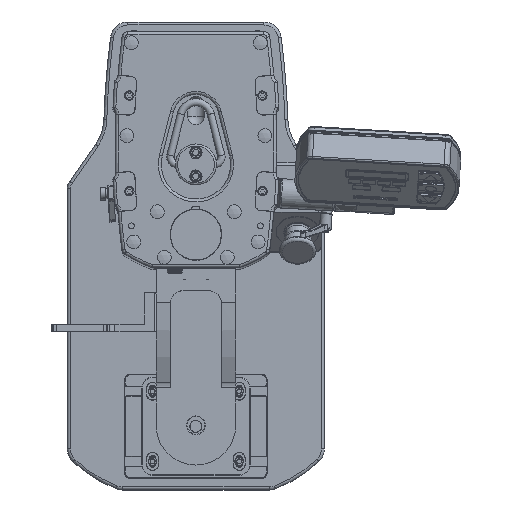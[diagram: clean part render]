
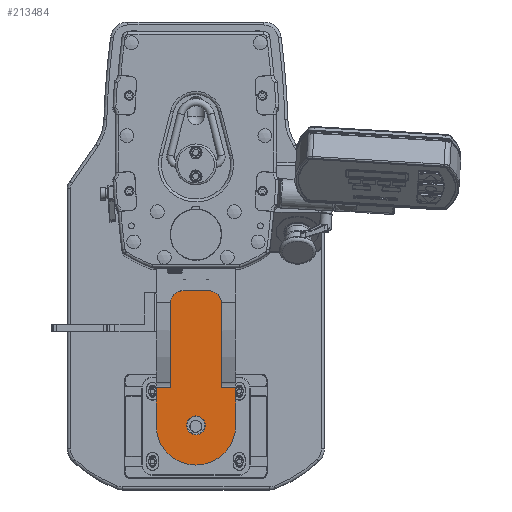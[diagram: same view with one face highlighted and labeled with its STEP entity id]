
A CAD part, top view. The second image highlights one B-rep face of the part: STEP entity #213484.
In plain terms, the highlighted planar face has unit normal (0, 0, 1).
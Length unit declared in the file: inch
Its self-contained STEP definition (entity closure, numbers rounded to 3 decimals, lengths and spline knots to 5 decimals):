
#179895=CARTESIAN_POINT('',(103.73337,-86.53199,-0.0405));
#179896=VERTEX_POINT('',#179895);
#179903=CARTESIAN_POINT('',(103.73337,-84.93199,-0.0405));
#179904=VERTEX_POINT('',#179903);
#179905=CARTESIAN_POINT('',(103.73337,-86.53199,-0.0405));
#179906=DIRECTION('',(0.0,1.0,0.0));
#179907=VECTOR('',#179906,1.6);
#179908=LINE('',#179905,#179907);
#179909=EDGE_CURVE('',#179896,#179904,#179908,.T.);
#213368=CARTESIAN_POINT('',(105.43337,-86.13099,-0.0405));
#213369=VERTEX_POINT('',#213368);
#213370=CARTESIAN_POINT('',(105.43337,-86.53199,-0.0405));
#213371=DIRECTION('',(0.0,0.0,1.0));
#213372=DIRECTION('',(0.0,-1.0,0.0));
#213373=AXIS2_PLACEMENT_3D('',#213370,#213371,#213372);
#213374=CIRCLE('',#213373,0.401);
#213375=EDGE_CURVE('',#213369,#213369,#213374,.T.);
#213400=CARTESIAN_POINT('',(105.43337,-83.78558,-0.0405));
#213401=DIRECTION('',(0.0,0.0,-1.0));
#213402=DIRECTION('',(0.0,1.0,0.0));
#213403=AXIS2_PLACEMENT_3D('',#213400,#213401,#213402);
#213404=PLANE('',#213403);
#213405=CARTESIAN_POINT('',(106.53337,-81.33199,-0.0405));
#213406=VERTEX_POINT('',#213405);
#213407=CARTESIAN_POINT('',(105.98337,-80.78199,-0.0405));
#213408=VERTEX_POINT('',#213407);
#213409=CARTESIAN_POINT('',(105.98337,-81.33199,-0.0405));
#213410=DIRECTION('',(0.,0.,1.0));
#213411=DIRECTION('',(0.707,0.707,0.));
#213412=AXIS2_PLACEMENT_3D('',#213409,#213410,#213411);
#213413=CIRCLE('',#213412,0.55);
#213414=EDGE_CURVE('',#213406,#213408,#213413,.T.);
#213415=ORIENTED_EDGE('',*,*,#213414,.T.);
#213416=CARTESIAN_POINT('',(104.88337,-80.78199,-0.0405));
#213417=VERTEX_POINT('',#213416);
#213418=CARTESIAN_POINT('',(104.88337,-80.78199,-0.0405));
#213419=DIRECTION('',(1.0,0.0,0.0));
#213420=VECTOR('',#213419,1.1);
#213421=LINE('',#213418,#213420);
#213422=EDGE_CURVE('',#213417,#213408,#213421,.T.);
#213423=ORIENTED_EDGE('',*,*,#213422,.F.);
#213424=CARTESIAN_POINT('',(104.33337,-81.33199,-0.0405));
#213425=VERTEX_POINT('',#213424);
#213426=CARTESIAN_POINT('',(104.88337,-81.33199,-0.0405));
#213427=DIRECTION('',(0.,0.,1.0));
#213428=DIRECTION('',(-0.707,0.707,0.));
#213429=AXIS2_PLACEMENT_3D('',#213426,#213427,#213428);
#213430=CIRCLE('',#213429,0.55);
#213431=EDGE_CURVE('',#213417,#213425,#213430,.T.);
#213432=ORIENTED_EDGE('',*,*,#213431,.T.);
#213433=CARTESIAN_POINT('',(104.33337,-84.93199,-0.0405));
#213434=VERTEX_POINT('',#213433);
#213435=CARTESIAN_POINT('',(104.33337,-81.33199,-0.0405));
#213436=DIRECTION('',(0.0,-1.0,0.0));
#213437=VECTOR('',#213436,3.6);
#213438=LINE('',#213435,#213437);
#213439=EDGE_CURVE('',#213425,#213434,#213438,.T.);
#213440=ORIENTED_EDGE('',*,*,#213439,.T.);
#213441=CARTESIAN_POINT('',(104.33337,-84.93199,-0.0405));
#213442=DIRECTION('',(-1.0,0.0,0.0));
#213443=VECTOR('',#213442,0.6);
#213444=LINE('',#213441,#213443);
#213445=EDGE_CURVE('',#213434,#179904,#213444,.T.);
#213446=ORIENTED_EDGE('',*,*,#213445,.T.);
#213447=ORIENTED_EDGE('',*,*,#179909,.F.);
#213448=CARTESIAN_POINT('',(107.13337,-86.53199,-0.0405));
#213449=VERTEX_POINT('',#213448);
#213450=CARTESIAN_POINT('',(105.43337,-86.53199,-0.0405));
#213451=DIRECTION('',(0.0,0.0,1.0));
#213452=DIRECTION('',(0.0,1.0,0.0));
#213453=AXIS2_PLACEMENT_3D('',#213450,#213451,#213452);
#213454=CIRCLE('',#213453,1.7);
#213455=EDGE_CURVE('',#179896,#213449,#213454,.T.);
#213456=ORIENTED_EDGE('',*,*,#213455,.T.);
#213457=CARTESIAN_POINT('',(107.13337,-84.93199,-0.0405));
#213458=VERTEX_POINT('',#213457);
#213459=CARTESIAN_POINT('',(107.13337,-86.53199,-0.0405));
#213460=DIRECTION('',(0.0,1.0,0.0));
#213461=VECTOR('',#213460,1.6);
#213462=LINE('',#213459,#213461);
#213463=EDGE_CURVE('',#213449,#213458,#213462,.T.);
#213464=ORIENTED_EDGE('',*,*,#213463,.T.);
#213465=CARTESIAN_POINT('',(106.53337,-84.93199,-0.0405));
#213466=VERTEX_POINT('',#213465);
#213467=CARTESIAN_POINT('',(107.13337,-84.93199,-0.0405));
#213468=DIRECTION('',(-1.0,0.0,0.0));
#213469=VECTOR('',#213468,0.6);
#213470=LINE('',#213467,#213469);
#213471=EDGE_CURVE('',#213458,#213466,#213470,.T.);
#213472=ORIENTED_EDGE('',*,*,#213471,.T.);
#213473=CARTESIAN_POINT('',(106.53337,-84.93199,-0.0405));
#213474=DIRECTION('',(0.0,1.0,0.0));
#213475=VECTOR('',#213474,3.6);
#213476=LINE('',#213473,#213475);
#213477=EDGE_CURVE('',#213466,#213406,#213476,.T.);
#213478=ORIENTED_EDGE('',*,*,#213477,.T.);
#213479=EDGE_LOOP('',(#213415,#213423,#213432,#213440,#213446,#213447,#213456,#213464,#213472,#213478));
#213480=FACE_OUTER_BOUND('',#213479,.T.);
#213481=ORIENTED_EDGE('',*,*,#213375,.F.);
#213482=EDGE_LOOP('',(#213481));
#213483=FACE_BOUND('',#213482,.T.);
#213484=ADVANCED_FACE('',(#213480,#213483),#213404,.F.);
